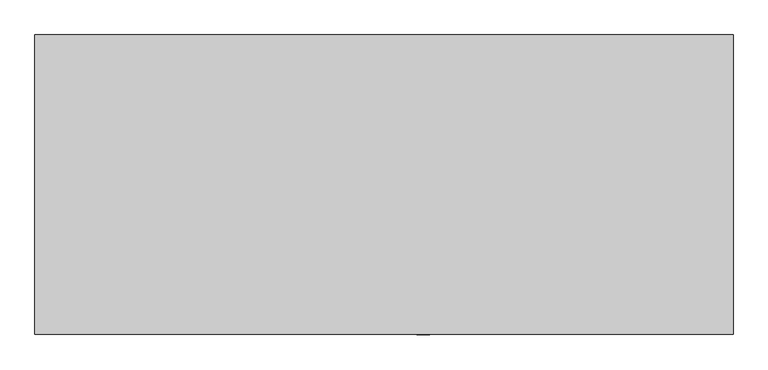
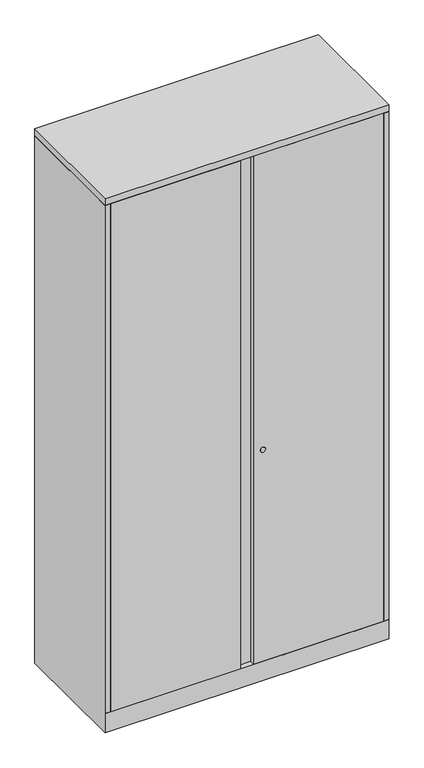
"""IFC4 building model written with IfcOpenShell, lengths in millimetres: furniture geometry, Steelcase - Universal Storage - Cabinet - Storage - 66H-84H - Flush Steel : 83 1/2H x 18D x 42W."""

from ifc_helpers import new_model, si_unit, point, frame, frame_2d, origin, place, context, project, spatial, polyline, circle_curve, trimmed, segment, composite_curve, outline, extrude, faceted_brep, source, transform, mapped, element, save


def furniture_8e994af7(model_context):
    return source(origin(), model_context, "Body", "SolidModel", [
        extrude(outline(polyline([(1066.8, 0.0), (1066.8, -457.2), (0.0, -457.2), (0.0, 0.0), (1066.8, 0.0)])), frame((0.0, 0.0, 2095.5), z_axis=(0.0, 0.0, 1.0), x_axis=(1.0, 0.0, 0.0)), (0.0, 0.0, 1.0), 25.4000484),
        extrude(outline(composite_curve([segment(trimmed(circle_curve(frame_2d((917.575, 593.2109835)), 9.7167829), [point((917.575, 602.9277664))], [point((917.575, 583.4942006))], False, "CARTESIAN"), True, "CONTINUOUS"), segment(trimmed(circle_curve(frame_2d((917.575, 593.2109835)), 9.7167829), [point((917.575, 583.4942006))], [point((917.575, 602.9277664))], False, "CARTESIAN"), True, "CONTINUOUS")], self_intersect=False)), frame((0.0, -457.8695275, 0.0), z_axis=(0.0, 1.0, 0.0), x_axis=(0.0, 0.0, 1.0)), (0.0, 0.0, 1.0), 0.6695275),
        extrude(outline(polyline([(20.8280006, -431.673866), (1045.972, -431.673866), (1045.972, -457.2), (557.53, -457.2), (557.53, -438.0238781), (509.27, -438.0238781), (509.27, -457.2), (20.8280006, -457.2), (20.8280006, -431.673866)])), frame((0.0, 0.0, 77.724), z_axis=(0.0, 0.0, 1.0), x_axis=(1.0, 0.0, 0.0)), (0.0, 0.0, 1.0), 2016.252),
        faceted_brep([(1066.8, 0.0, 0.0), (1066.8, -457.2, 0.0), (0.0, -457.2, 0.0), (0.0, 0.0, 0.0), (0.0, 0.0, 2093.976), (1066.8, 0.0, 2093.976), (0.0, -457.2, 76.2), (0.0, -457.2, 77.724), (0.0, -457.2, 2093.976), (1066.8, -457.2, 76.2), (1066.8, -457.2, 2093.976), (1066.8, -457.2, 77.724), (1041.4000242, -25.4000008, 2093.976), (1041.4000242, -430.1498674, 2093.976), (1045.972, -430.1498674, 2093.976), (1045.972, -431.6738781, 2093.976), (1047.496, -431.6738781, 2093.976), (1047.496, -457.2, 2093.976), (19.304, -457.2, 2093.976), (19.304, -431.673866, 2093.976), (20.8280006, -431.673866, 2093.976), (20.8280006, -430.1498674, 2093.976), (25.4000008, -430.1498674, 2093.976), (25.4000008, -25.4000008, 2093.976), (19.304, -457.2, 77.724), (19.304, -437.896, 77.724), (1047.496, -457.2, 77.724), (1047.496, -437.7698418, 77.724), (1041.4000242, -25.4000008, 77.724), (1041.4000242, -430.1498674, 77.724), (1045.972, -430.1498674, 77.724), (1045.972, -431.6738781, 77.724), (1047.496, -431.6738781, 77.724), (19.304, -431.673866, 77.724), (20.8280006, -431.673866, 77.724), (20.8280006, -430.1498674, 77.724), (25.4000008, -430.1498674, 77.724), (25.4000008, -25.4000008, 77.724), (25.526134, -431.673866, 77.724), (1041.4000242, -431.673866, 77.724)], [[[0, 1, 2, 3]], [[0, 3, 4, 5]], [[4, 3, 2, 6, 7, 8]], [[2, 1, 9, 6]], [[1, 0, 5, 10, 11, 9]], [[12, 13, 14, 15, 16, 17, 10, 5, 4, 8, 18, 19, 20, 21, 22, 23]], [[24, 7, 25]], [[11, 26, 27]], [[13, 12, 28, 29]], [[14, 13, 29, 30]], [[15, 14, 30, 31]], [[16, 15, 31, 32]], [[17, 16, 32, 27, 26]], [[10, 17, 26, 11]], [[18, 8, 7, 24]], [[19, 18, 24, 25, 33]], [[20, 19, 33, 34]], [[21, 20, 34, 35]], [[22, 21, 35, 36]], [[23, 22, 36, 37]], [[12, 23, 37, 28]], [[38, 39, 27, 32, 31, 30, 29, 28, 37, 36, 35, 34, 33, 25]], [[7, 6, 38, 25]], [[39, 38, 6, 9]], [[39, 9, 11, 27]]]),
    ])


if __name__ == "__main__":
    model = new_model("IFC4")
    model_context = context("Model", 3, world=origin())
    ifc_project = project(units=[si_unit("LENGTHUNIT", "METRE", prefix="MILLI")], contexts=[model_context])
    site = spatial("IfcSite", under=ifc_project)
    building = spatial("IfcBuilding", under=site)
    placement = place(None, origin())
    furniture_shape = furniture_8e994af7(model_context)
    element("IfcFurniture", 1, ObjectType="Steelcase - Universal Storage - Cabinet - Storage - 66H-84H - Flush Steel : 83 1/2H x 18D x 42W", at=placement, inside=building, context=model_context, shape_type="MappedRepresentation", body=[
        mapped(furniture_shape, transform((0.0, 0.0, 0.0), x_axis=(1.0, 0.0, 0.0), y_axis=(0.0, 1.0, 0.0), z_axis=(0.0, 0.0, 1.0))),
    ])
    save(model, "model.ifc")
